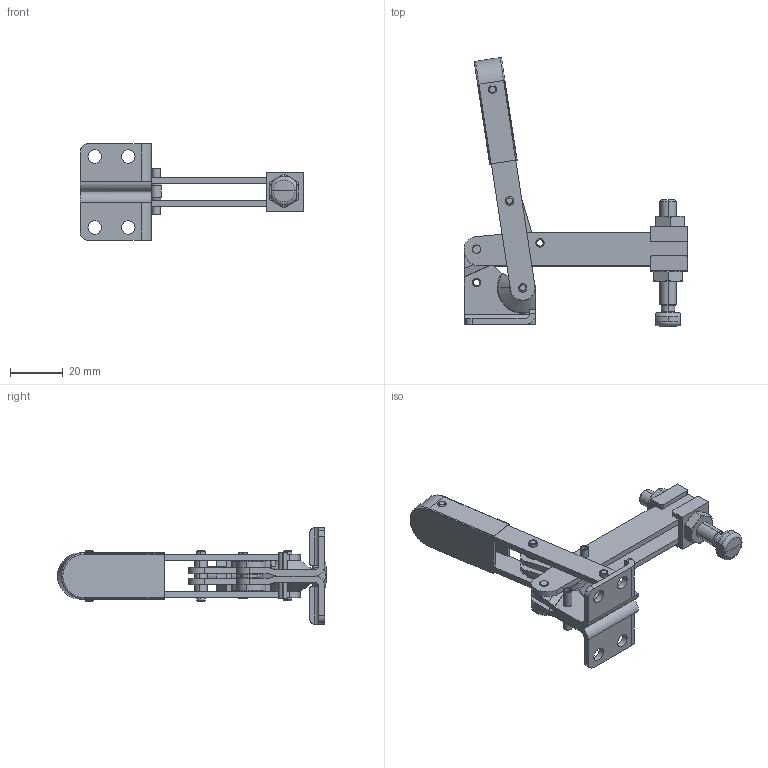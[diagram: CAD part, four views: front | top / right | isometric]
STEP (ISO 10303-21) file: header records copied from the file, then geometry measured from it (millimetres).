
FILE_DESCRIPTION((''),'2;1');
FILE_NAME('C:\lapeer-mfg\100\step\v-100.stp','2005-06-07T18:35:03',('rtaylor'),(''),'Autodesk Inventor 9','Autodesk Inventor 9','');
FILE_SCHEMA(('AUTOMOTIVE_DESIGN { 1 0 10303 214 1 1 1 1 }'));
Length unit declared in the file: inch
Products named in the file (15): v-100; 100015; 120006-R; 120006-L; 110001-RL; 130009; 150066; 150067; 150011-1; 150011; 102009; N-470007; 170007; 171001; 4 - 20
Assembly tree (22 placements, depth 3):
  v-100
    100015  x2
    120006-R
    120006-L
    110001-RL  x2
    130009  x2
    150066  x2
    150067  x3
    150011-1
    150011
    102009
    N-470007
      170007
      171001  x2
      4 - 20  x2
Bounding box: 84.94 x 101.98 x 36.53 mm (x, y, z)
Volume: 20809.7 mm3; surface area: 24714.1 mm2
Topology: 21 solids, 21 shells, 442 faces, 1089 edges, 706 vertices
Faces by surface type: cylinder 172, plane 129, bspline 65, cone 52, torus 22, sphere 2
Entity records: 10958 total; most frequent: CARTESIAN_POINT 2947, DIRECTION 1677, ORIENTED_EDGE 1580, EDGE_CURVE 790, AXIS2_PLACEMENT_3D 676, VERTEX_POINT 516, CIRCLE 367, EDGE_LOOP 358
